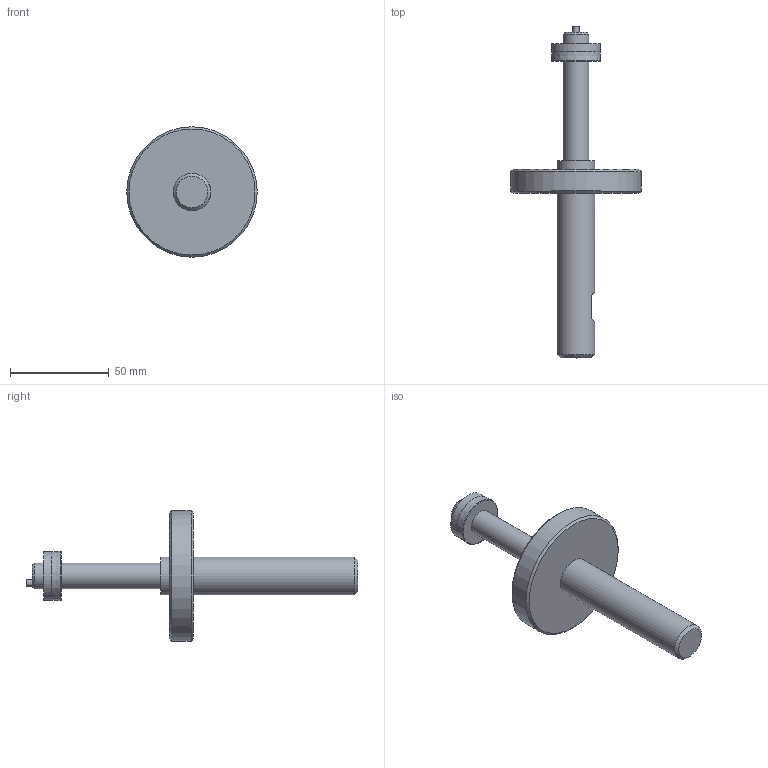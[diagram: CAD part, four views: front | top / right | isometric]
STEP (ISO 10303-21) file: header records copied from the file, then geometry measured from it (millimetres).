
FILE_DESCRIPTION (( 'STEP AP203' ), '1' );
FILE_NAME ('AF50-SIMPLE - AF50-13.00-25.00M.step', '2025-01-21T16:25:42', ( '' ), ( '' ), 'SwSTEP 2.0', 'SolidWorks 2024', '' );
FILE_SCHEMA (( 'CONFIG_CONTROL_DESIGN' ));
Length unit declared in the file: inch
Products named in the file (1): AF50-SIMPLE - AF50-13.00-25.00M
Bounding box: 66.04 x 168.02 x 66.04 mm (x, y, z)
Volume: 77791.4 mm3; surface area: 17955.2 mm2
Topology: 1 solids, 1 shells, 24 faces, 40 edges, 25 vertices
Faces by surface type: plane 11, cylinder 7, cone 5, torus 1
Full cylindrical faces by diameter (mm): 3.175 x1, 12.878 x2, 19.05 x2, 24.494 x1, 66.04 x1
Entity records: 569 total; most frequent: DIRECTION 94, CARTESIAN_POINT 81, ORIENTED_EDGE 52, AXIS2_PLACEMENT_3D 45, EDGE_LOOP 44, FACE_OUTER_BOUND 32, EDGE_CURVE 26, VERTEX_POINT 24
